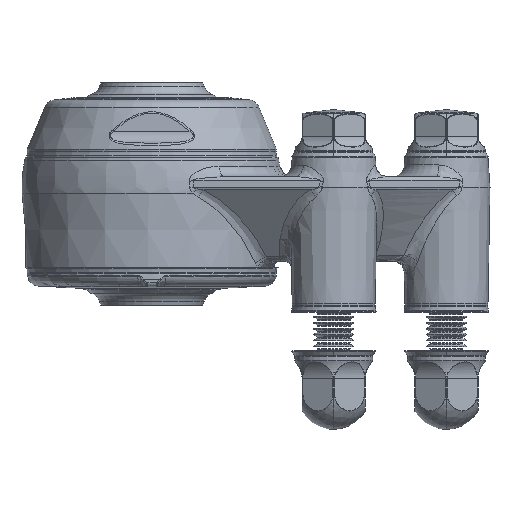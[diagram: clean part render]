
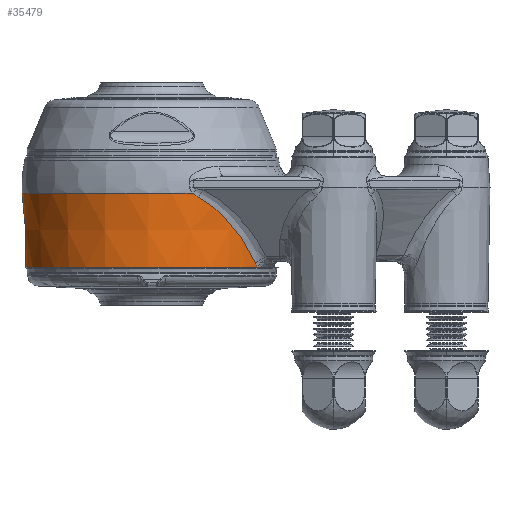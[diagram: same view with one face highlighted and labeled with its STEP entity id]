
A CAD part, left-side view. The second image highlights one B-rep face of the part: STEP entity #35479.
In plain terms, the highlighted conical face has half-angle 2.646 degrees and reference radius 33 mm.
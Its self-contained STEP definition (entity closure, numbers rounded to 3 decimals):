
#661 = CARTESIAN_POINT ( 'NONE',  ( -31.089, -10.477, 4.828 ) ) ;
#1196 = ORIENTED_EDGE ( 'NONE', *, *, #57048, .T. ) ;
#1379 = CARTESIAN_POINT ( 'NONE',  ( -28.976, -15.174, 1.704 ) ) ;
#1711 = CARTESIAN_POINT ( 'NONE',  ( -18.222, -26.282, -13.044 ) ) ;
#1745 = FACE_OUTER_BOUND ( 'NONE', #21895, .T. ) ;
#1975 = CARTESIAN_POINT ( 'NONE',  ( -20.589, -24.713, -9.793 ) ) ;
#2033 = CARTESIAN_POINT ( 'NONE',  ( 0., 0., 9. ) ) ;
#2840 = CARTESIAN_POINT ( 'NONE',  ( 18.222, -26.282, -13.044 ) ) ;
#3126 = CARTESIAN_POINT ( 'NONE',  ( 22.877, -22.818, -6.655 ) ) ;
#3192 = ORIENTED_EDGE ( 'NONE', *, *, #13860, .T. ) ;
#3819 = CARTESIAN_POINT ( 'NONE',  ( 30.663, -11.563, 4.011 ) ) ;
#3952 = VERTEX_POINT ( 'NONE', #5849 ) ;
#4882 = EDGE_CURVE ( 'NONE', #29271, #44997, #43322, .T. ) ;
#5043 = VERTEX_POINT ( 'NONE', #9787 ) ;
#5134 = AXIS2_PLACEMENT_3D ( 'NONE', #2033, #11402, #20507 ) ;
#5630 = DIRECTION ( 'NONE',  ( 0., 1., 0. ) ) ;
#5747 = CARTESIAN_POINT ( 'NONE',  ( -18.222, -26.282, -13.044 ) ) ;
#5849 = CARTESIAN_POINT ( 'NONE',  ( 30.566, -11.798, 3.878 ) ) ;
#6074 = CARTESIAN_POINT ( 'NONE',  ( 18.222, -26.282, -13.044 ) ) ;
#6660 = DIRECTION ( 'NONE',  ( 0., 0., 1. ) ) ;
#7079 = CARTESIAN_POINT ( 'NONE',  ( -27.095, -18.111, -0.873 ) ) ;
#7610 = ORIENTED_EDGE ( 'NONE', *, *, #54749, .T. ) ;
#7842 = B_SPLINE_CURVE_WITH_KNOTS ( 'NONE', 3,
 ( #6074, #56633, #19158, #42403 ),
 .UNSPECIFIED., .F., .F.,
 ( 4, 4 ),
 ( 0., 0.001 ),
 .UNSPECIFIED. ) ;
#8339 = EDGE_CURVE ( 'NONE', #26607, #5043, #57615, .T. ) ;
#8984 = CONICAL_SURFACE ( 'NONE', #5134, 33., 0.046 ) ;
#9787 = CARTESIAN_POINT ( 'NONE',  ( 0., 32.807, 4.828 ) ) ;
#9821 = VERTEX_POINT ( 'NONE', #18769 ) ;
#10817 = CARTESIAN_POINT ( 'NONE',  ( -17.471, -26.74, -13.9 ) ) ;
#11402 = DIRECTION ( 'NONE',  ( 0., 0., 1. ) ) ;
#12549 = VERTEX_POINT ( 'NONE', #48659 ) ;
#12852 = CARTESIAN_POINT ( 'NONE',  ( 0., 0., 4.828 ) ) ;
#13173 = DIRECTION ( 'NONE',  ( 0., 0., -1. ) ) ;
#13398 = ORIENTED_EDGE ( 'NONE', *, *, #19450, .T. ) ;
#13860 = EDGE_CURVE ( 'NONE', #3952, #57470, #22105, .T. ) ;
#15928 = CARTESIAN_POINT ( 'NONE',  ( -17.995, -26.422, -13.356 ) ) ;
#16105 = ORIENTED_EDGE ( 'NONE', *, *, #39517, .T. ) ;
#18235 = CARTESIAN_POINT ( 'NONE',  ( -31.013, -10.676, 4.636 ) ) ;
#18769 = CARTESIAN_POINT ( 'NONE',  ( 0., 31.942, -13.9 ) ) ;
#19133 = CARTESIAN_POINT ( 'NONE',  ( -30.755, -11.334, 4.154 ) ) ;
#19158 = CARTESIAN_POINT ( 'NONE',  ( 17.742, -26.577, -13.643 ) ) ;
#19450 = EDGE_CURVE ( 'NONE', #5043, #12549, #32749, .T. ) ;
#19589 = EDGE_CURVE ( 'NONE', #57470, #33457, #7842, .T. ) ;
#20187 = CARTESIAN_POINT ( 'NONE',  ( -17.742, -26.577, -13.643 ) ) ;
#20507 = DIRECTION ( 'NONE',  ( 0., -1., 0. ) ) ;
#20944 = CIRCLE ( 'NONE', #54738, 31.942 ) ;
#21036 = CARTESIAN_POINT ( 'NONE',  ( 29.83, -13.574, 2.872 ) ) ;
#21895 = EDGE_LOOP ( 'NONE', ( #7610, #16105, #25183, #41711, #32323, #34694, #13398, #1196, #3192, #30970 ) ) ;
#22105 = B_SPLINE_CURVE_WITH_KNOTS ( 'NONE', 3,
 ( #26770, #21036, #58508, #30706, #44575, #44285, #3126, #53082, #34916, #2840 ),
 .UNSPECIFIED., .F., .F.,
 ( 4, 2, 2, 2, 4 ),
 ( 0., 0.006, 0.013, 0.019, 0.026 ),
 .UNSPECIFIED. ) ;
#23875 = DIRECTION ( 'NONE',  ( 0., 0., -1. ) ) ;
#24995 = CARTESIAN_POINT ( 'NONE',  ( -26.089, -19.412, -2.251 ) ) ;
#25183 = ORIENTED_EDGE ( 'NONE', *, *, #4882, .T. ) ;
#25964 = AXIS2_PLACEMENT_3D ( 'NONE', #12852, #13173, #49465 ) ;
#26607 = VERTEX_POINT ( 'NONE', #56474 ) ;
#26770 = CARTESIAN_POINT ( 'NONE',  ( 30.566, -11.798, 3.878 ) ) ;
#26866 = CARTESIAN_POINT ( 'NONE',  ( 31.013, -10.676, 4.636 ) ) ;
#28391 = CARTESIAN_POINT ( 'NONE',  ( 0., 0., 4.828 ) ) ;
#28668 = CARTESIAN_POINT ( 'NONE',  ( 0., 0., -13.9 ) ) ;
#28941 = CARTESIAN_POINT ( 'NONE',  ( -22.877, -22.818, -6.655 ) ) ;
#29271 = VERTEX_POINT ( 'NONE', #10817 ) ;
#29877 = B_SPLINE_CURVE_WITH_KNOTS ( 'NONE', 3,
 ( #51905, #48539, #1975, #28941, #37965, #24995, #7079, #1379, #43994, #33756 ),
 .UNSPECIFIED., .F., .F.,
 ( 4, 2, 2, 2, 4 ),
 ( 0., 0.006, 0.013, 0.019, 0.026 ),
 .UNSPECIFIED. ) ;
#29900 = CARTESIAN_POINT ( 'NONE',  ( 17.471, -26.74, -13.9 ) ) ;
#30388 = AXIS2_PLACEMENT_3D ( 'NONE', #38145, #6660, #48119 ) ;
#30706 = CARTESIAN_POINT ( 'NONE',  ( 27.095, -18.111, -0.873 ) ) ;
#30970 = ORIENTED_EDGE ( 'NONE', *, *, #19589, .T. ) ;
#32323 = ORIENTED_EDGE ( 'NONE', *, *, #45777, .T. ) ;
#32749 = CIRCLE ( 'NONE', #25964, 32.807 ) ;
#33457 = VERTEX_POINT ( 'NONE', #29900 ) ;
#33756 = CARTESIAN_POINT ( 'NONE',  ( -30.566, -11.798, 3.878 ) ) ;
#34694 = ORIENTED_EDGE ( 'NONE', *, *, #8339, .T. ) ;
#34916 = CARTESIAN_POINT ( 'NONE',  ( 19.417, -25.546, -11.402 ) ) ;
#35479 = ADVANCED_FACE ( 'NONE', ( #1745 ), #8984, .T. ) ;
#35557 = EDGE_CURVE ( 'NONE', #44997, #59506, #29877, .T. ) ;
#36761 = CARTESIAN_POINT ( 'NONE',  ( -30.566, -11.798, 3.878 ) ) ;
#37906 = CARTESIAN_POINT ( 'NONE',  ( 31.089, -10.477, 4.828 ) ) ;
#37965 = CARTESIAN_POINT ( 'NONE',  ( -23.98, -21.766, -5.142 ) ) ;
#38145 = CARTESIAN_POINT ( 'NONE',  ( 0., 0., -13.9 ) ) ;
#39337 = CARTESIAN_POINT ( 'NONE',  ( 18.222, -26.282, -13.044 ) ) ;
#39517 = EDGE_CURVE ( 'NONE', #9821, #29271, #44804, .T. ) ;
#40728 = CARTESIAN_POINT ( 'NONE',  ( 30.566, -11.798, 3.878 ) ) ;
#41299 = B_SPLINE_CURVE_WITH_KNOTS ( 'NONE', 3,
 ( #51178, #56300, #19133, #46606, #18235, #661 ),
 .UNSPECIFIED., .F., .F.,
 ( 4, 2, 4 ),
 ( 0., 0.001, 0.002 ),
 .UNSPECIFIED. ) ;
#41711 = ORIENTED_EDGE ( 'NONE', *, *, #35557, .T. ) ;
#42290 = DIRECTION ( 'NONE',  ( 0., 1., 0. ) ) ;
#42403 = CARTESIAN_POINT ( 'NONE',  ( 17.471, -26.74, -13.9 ) ) ;
#43322 = B_SPLINE_CURVE_WITH_KNOTS ( 'NONE', 3,
 ( #47659, #20187, #15928, #1711 ),
 .UNSPECIFIED., .F., .F.,
 ( 4, 4 ),
 ( 0.005, 0.006 ),
 .UNSPECIFIED. ) ;
#43994 = CARTESIAN_POINT ( 'NONE',  ( -29.83, -13.574, 2.872 ) ) ;
#44285 = CARTESIAN_POINT ( 'NONE',  ( 23.98, -21.766, -5.142 ) ) ;
#44575 = CARTESIAN_POINT ( 'NONE',  ( 26.089, -19.412, -2.251 ) ) ;
#44804 = CIRCLE ( 'NONE', #30388, 31.942 ) ;
#44997 = VERTEX_POINT ( 'NONE', #5747 ) ;
#45260 = CARTESIAN_POINT ( 'NONE',  ( 30.93, -10.89, 4.466 ) ) ;
#45777 = EDGE_CURVE ( 'NONE', #59506, #26607, #41299, .T. ) ;
#46606 = CARTESIAN_POINT ( 'NONE',  ( -30.93, -10.89, 4.466 ) ) ;
#47082 = DIRECTION ( 'NONE',  ( 0., 0., 1. ) ) ;
#47659 = CARTESIAN_POINT ( 'NONE',  ( -17.471, -26.74, -13.9 ) ) ;
#47939 = AXIS2_PLACEMENT_3D ( 'NONE', #28391, #23875, #42290 ) ;
#48119 = DIRECTION ( 'NONE',  ( 0., 1., 0. ) ) ;
#48539 = CARTESIAN_POINT ( 'NONE',  ( -19.417, -25.546, -11.402 ) ) ;
#48659 = CARTESIAN_POINT ( 'NONE',  ( 31.089, -10.477, 4.828 ) ) ;
#49465 = DIRECTION ( 'NONE',  ( 0., 1., 0. ) ) ;
#50655 = B_SPLINE_CURVE_WITH_KNOTS ( 'NONE', 3,
 ( #37906, #26866, #45260, #56376, #3819, #40728 ),
 .UNSPECIFIED., .F., .F.,
 ( 4, 2, 4 ),
 ( 0., 0.001, 0.002 ),
 .UNSPECIFIED. ) ;
#51178 = CARTESIAN_POINT ( 'NONE',  ( -30.566, -11.798, 3.878 ) ) ;
#51905 = CARTESIAN_POINT ( 'NONE',  ( -18.222, -26.282, -13.044 ) ) ;
#53082 = CARTESIAN_POINT ( 'NONE',  ( 20.589, -24.713, -9.793 ) ) ;
#54738 = AXIS2_PLACEMENT_3D ( 'NONE', #28668, #47082, #5630 ) ;
#54749 = EDGE_CURVE ( 'NONE', #33457, #9821, #20944, .T. ) ;
#56300 = CARTESIAN_POINT ( 'NONE',  ( -30.663, -11.563, 4.011 ) ) ;
#56376 = CARTESIAN_POINT ( 'NONE',  ( 30.755, -11.334, 4.154 ) ) ;
#56474 = CARTESIAN_POINT ( 'NONE',  ( -31.089, -10.477, 4.828 ) ) ;
#56633 = CARTESIAN_POINT ( 'NONE',  ( 17.993, -26.424, -13.359 ) ) ;
#57048 = EDGE_CURVE ( 'NONE', #12549, #3952, #50655, .T. ) ;
#57470 = VERTEX_POINT ( 'NONE', #39337 ) ;
#57615 = CIRCLE ( 'NONE', #47939, 32.807 ) ;
#58508 = CARTESIAN_POINT ( 'NONE',  ( 28.976, -15.175, 1.703 ) ) ;
#59506 = VERTEX_POINT ( 'NONE', #36761 ) ;
